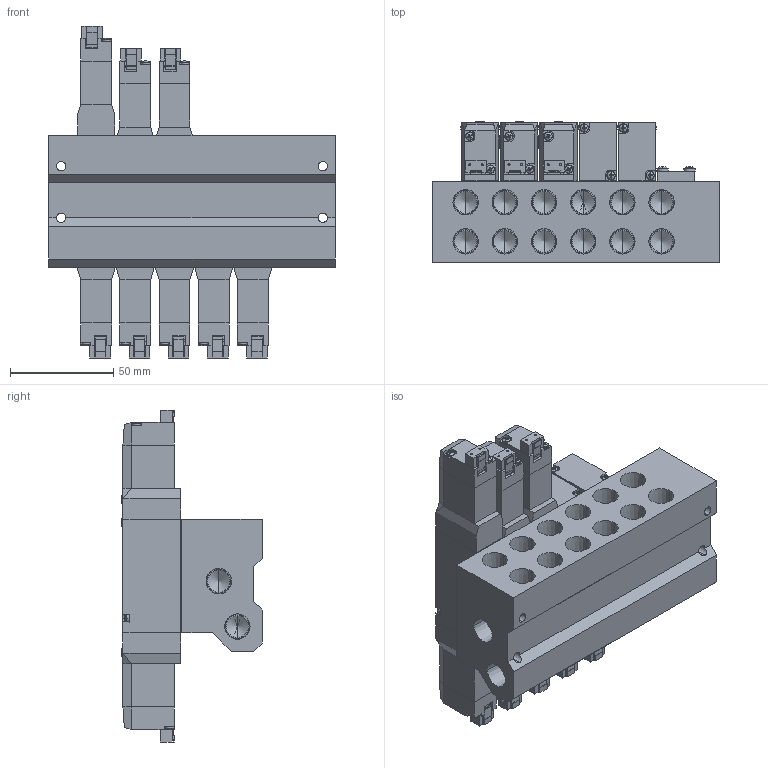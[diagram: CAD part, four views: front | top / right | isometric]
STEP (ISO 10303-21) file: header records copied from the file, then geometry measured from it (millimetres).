
FILE_DESCRIPTION (( 'STEP AP203' ), '1' );
FILE_NAME ('MFS#-PS13-02-SP.STEP', '2016-02-04T03:35:19', ( 'Sam Lin' ), ( '' ), 'SwSTEP 2.0', 'SolidWorks 2013', '' );
FILE_SCHEMA (( 'CONFIG_CONTROL_DESIGN' ));
Length unit declared in the file: metre
Products named in the file (16): PC13-2; MFS-PS13-02; PC13-3-B; PC13-10-盲板; 承頭; ISO 7045 - M3 x 20; MFS#-PS13-02-SP; PC13-MARK; PC13-4-墊片; PC13-8; PC13-3; PC13-9; PC13-6; ISO 7045 - M2 x 10; PC5-6; PC13-7
Assembly tree (93 placements, depth 2):
  MFS#-PS13-02-SP
    MFS-PS13-02
    PC13-10-盲板
    ISO 7045 - M3 x 20  x12
    PC13-4-墊片  x5
    PC13-3  x4
    PC13-6  x8
    PC5-6  x8
    PC13-MARK  x5
    PC13-8  x8
    PC13-9  x8
    ISO 7045 - M2 x 10  x20
    PC13-7  x8
    PC13-2  x2
    PC13-3-B
    承頭  x2
Bounding box: 139 x 68 x 161 mm (x, y, z)
Volume: 563329 mm3; surface area: 153781.9 mm2
Topology: 131 solids, 131 shells, 2998 faces, 7354 edges, 4598 vertices
Faces by surface type: plane 1896, cylinder 446, cone 420, bspline 236
Entity records: 18949 total; most frequent: CARTESIAN_POINT 3169, DIRECTION 2585, ORIENTED_EDGE 2374, EDGE_CURVE 1187, AXIS2_PLACEMENT_3D 914, VERTEX_POINT 770, VECTOR 757, LINE 757
